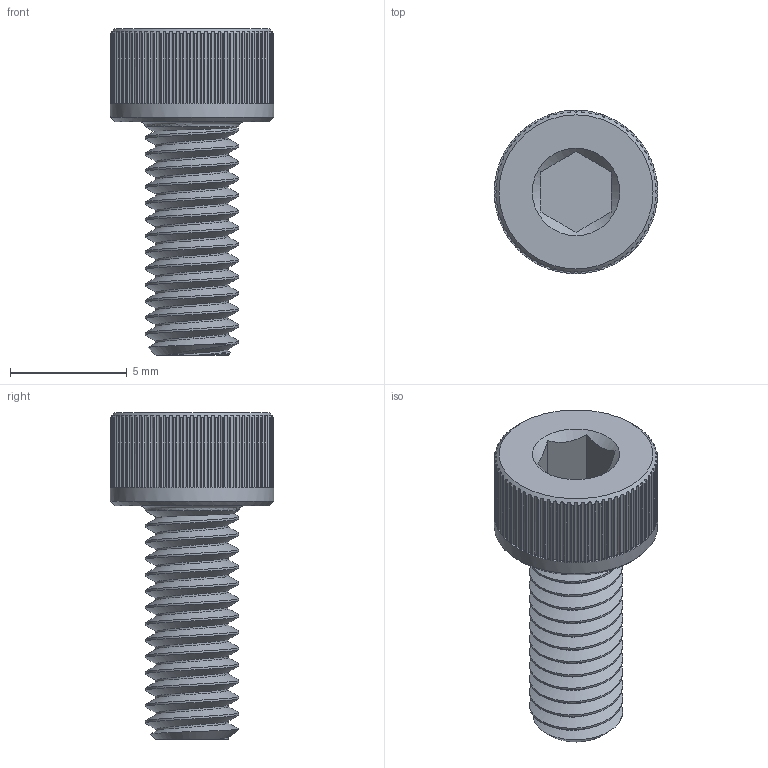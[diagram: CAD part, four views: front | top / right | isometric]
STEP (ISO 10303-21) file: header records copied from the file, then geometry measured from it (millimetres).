
FILE_DESCRIPTION(/* description */ ('STEP AP242 Edition 2','CAx-IF Rec.Pracs.---Representation and Presentation of Product Manufacturing Information (PMI)---4.0---2014-10-13','CAx-IF Rec.Pracs.---3D Tessellated Geometry---0.4---2014-09-14','2;1','CAx-IF Rec.Pracs.---User Defined Attributes---1.5---2016-08-15'),/* implementation_level */ '2;1');
FILE_NAME(/* name */ 'Assembly 1 - m4-10 (2)',/* time_stamp */ '2026-09-25T20:07:17Z',/* author */ (''),/* organization */ (''),/* preprocessor_version */ 'ST-DEVELOPER v20',/* originating_system */ 'ONSHAPE BY PTC INC, 1.221',/* authorisation */ ' ');
FILE_SCHEMA (('AP242_MANAGED_MODEL_BASED_3D_ENGINEERING_MIM_LF { 1 0 10303 442 3 1 4 }'));
Length unit declared in the file: metre
Products named in the file (1): m4*10
Bounding box: 7 x 7 x 14 mm (x, y, z)
Volume: 224.8 mm3; surface area: 388.6 mm2
Topology: 1 solids, 1 shells, 309 faces, 968 edges, 663 vertices
Faces by surface type: plane 226, cylinder 75, cone 5, bspline 2, torus 1
Full cylindrical faces by diameter (mm): 7 x1
Entity records: 14003 total; most frequent: CARTESIAN_POINT 5742, ORIENTED_EDGE 1920, DIRECTION 1510, EDGE_CURVE 960, VERTEX_POINT 660, AXIS2_PLACEMENT_3D 533, LINE 444, VECTOR 444
